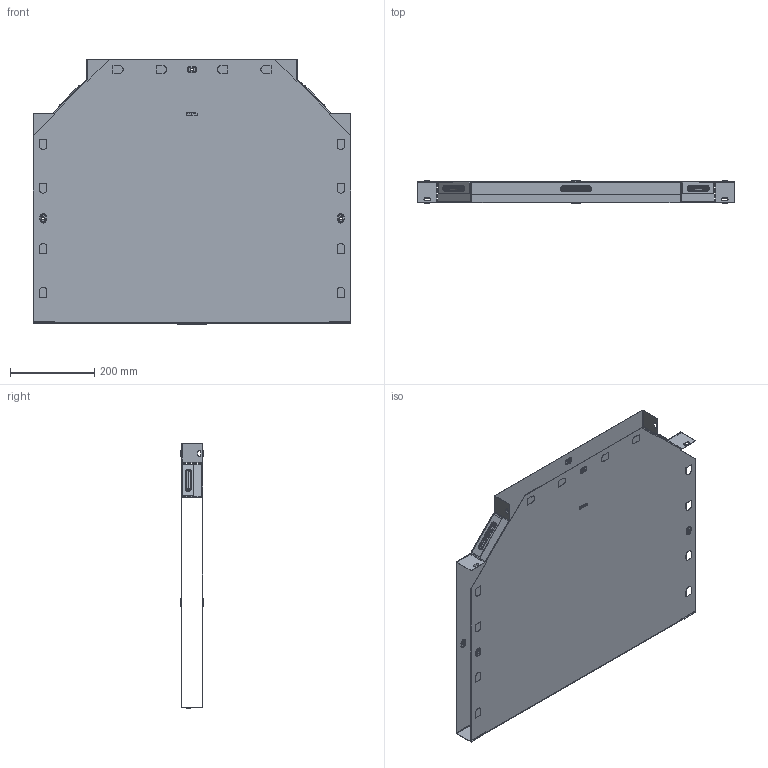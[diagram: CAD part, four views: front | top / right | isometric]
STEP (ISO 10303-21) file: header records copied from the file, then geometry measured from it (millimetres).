
FILE_DESCRIPTION (( 'STEP AP214' ), '1' );
FILE_NAME ('t5050008_捘.STEP', '2019-06-10T08:12:46', ( '砐錪賧瘔蠈錪 Windows' ), ( '' ), 'SwSTEP 2.0', 'SolidWorks 2018', '' );
FILE_SCHEMA (( 'AUTOMOTIVE_DESIGN' ));
Length unit declared in the file: millimetre
Products named in the file (1): t5050008_捘
Bounding box: 756.4 x 53.8 x 631 mm (x, y, z)
Volume: 774027.4 mm3; surface area: 1941525.6 mm2
Topology: 2 solids, 2 shells, 676 faces, 1872 edges, 1212 vertices
Faces by surface type: plane 370, cylinder 192, torus 96, bspline 18
Entity records: 22665 total; most frequent: CARTESIAN_POINT 4841, ORIENTED_EDGE 3744, DIRECTION 3682, EDGE_CURVE 1872, VECTOR 1308, LINE 1308, VERTEX_POINT 1212, AXIS2_PLACEMENT_3D 1187
